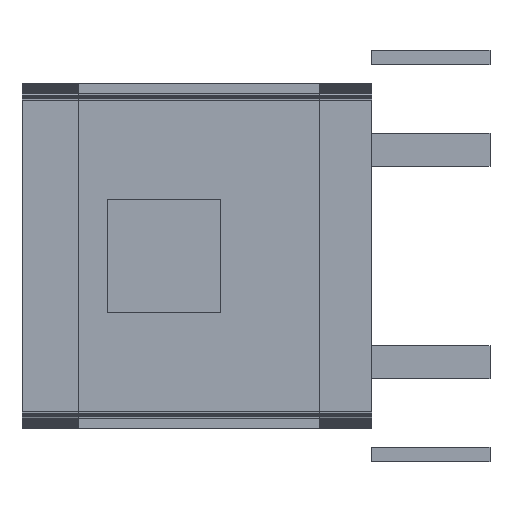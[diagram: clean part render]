
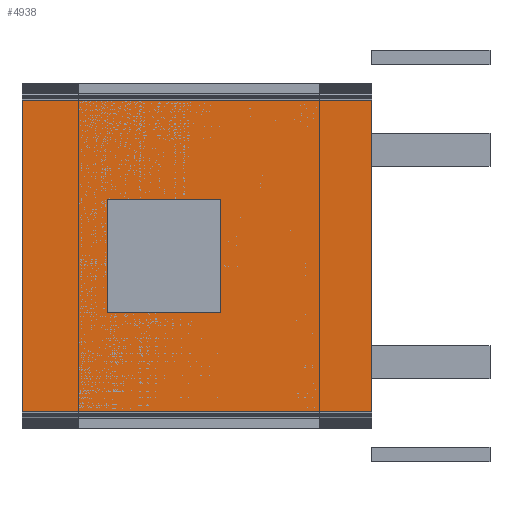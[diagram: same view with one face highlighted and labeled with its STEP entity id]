
A CAD part, left-side view. The second image highlights one B-rep face of the part: STEP entity #4938.
In plain terms, the highlighted planar face has unit normal (-1, 0, 0).
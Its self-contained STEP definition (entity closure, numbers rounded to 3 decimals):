
#32 = PLANE('',#33);
#33 = AXIS2_PLACEMENT_3D('',#34,#35,#36);
#34 = CARTESIAN_POINT('',(-32.411,1.8,27.503
    ));
#35 = DIRECTION('',(0.,1.,0.));
#36 = DIRECTION('',(0.,0.,1.));
#1009 = VERTEX_POINT('',#1010);
#1010 = CARTESIAN_POINT('',(-36.85,1.8,27.7));
#1024 = PLANE('',#1025);
#1025 = AXIS2_PLACEMENT_3D('',#1026,#1027,#1028);
#1026 = CARTESIAN_POINT('',(-36.849,-1.893,
    27.68));
#1027 = DIRECTION('',(-0.999,-0.,-0.037));
#1028 = DIRECTION('',(0.037,0.,-0.999));
#1036 = EDGE_CURVE('',#1037,#1009,#1039,.T.);
#1037 = VERTEX_POINT('',#1038);
#1038 = CARTESIAN_POINT('',(-36.85,1.8,34.3));
#1039 = SURFACE_CURVE('',#1040,(#1044,#1051),.PCURVE_S1.);
#1040 = LINE('',#1041,#1042);
#1041 = CARTESIAN_POINT('',(-36.85,1.8,34.3));
#1042 = VECTOR('',#1043,1.);
#1043 = DIRECTION('',(0.,0.,-1.));
#1044 = PCURVE('',#32,#1045);
#1045 = DEFINITIONAL_REPRESENTATION('',(#1046),#1050);
#1046 = LINE('',#1047,#1048);
#1047 = CARTESIAN_POINT('',(6.797,-4.439));
#1048 = VECTOR('',#1049,1.);
#1049 = DIRECTION('',(-1.,0.));
#1050 = ( GEOMETRIC_REPRESENTATION_CONTEXT(2) 
PARAMETRIC_REPRESENTATION_CONTEXT() REPRESENTATION_CONTEXT('2D SPACE',''
  ) );
#1051 = PCURVE('',#1052,#1057);
#1052 = PLANE('',#1053);
#1053 = AXIS2_PLACEMENT_3D('',#1054,#1055,#1056);
#1054 = CARTESIAN_POINT('',(-36.85,-2.921,29.979));
#1055 = DIRECTION('',(-1.,-0.,-0.));
#1056 = DIRECTION('',(0.,-1.,0.));
#1057 = DEFINITIONAL_REPRESENTATION('',(#1058),#1062);
#1058 = LINE('',#1059,#1060);
#1059 = CARTESIAN_POINT('',(-4.721,4.321));
#1060 = VECTOR('',#1061,1.);
#1061 = DIRECTION('',(0.,-1.));
#1062 = ( GEOMETRIC_REPRESENTATION_CONTEXT(2) 
PARAMETRIC_REPRESENTATION_CONTEXT() REPRESENTATION_CONTEXT('2D SPACE',''
  ) );
#1080 = PLANE('',#1081);
#1081 = AXIS2_PLACEMENT_3D('',#1082,#1083,#1084);
#1082 = CARTESIAN_POINT('',(-36.85,-1.907,
    34.307));
#1083 = DIRECTION('',(-0.999,0.,0.037));
#1084 = DIRECTION('',(-0.037,0.,-0.999));
#2494 = VERTEX_POINT('',#2495);
#2495 = CARTESIAN_POINT('',(-36.85,-5.6,27.7));
#2504 = PLANE('',#2505);
#2505 = AXIS2_PLACEMENT_3D('',#2506,#2507,#2508);
#2506 = CARTESIAN_POINT('',(-36.848,-5.6,27.674));
#2507 = DIRECTION('',(-0.,-1.,-0.));
#2508 = DIRECTION('',(0.,0.,-1.));
#4479 = VERTEX_POINT('',#4480);
#4480 = CARTESIAN_POINT('',(-36.85,-5.6,34.3));
#4501 = EDGE_CURVE('',#4479,#2494,#4502,.T.);
#4502 = SURFACE_CURVE('',#4503,(#4507,#4514),.PCURVE_S1.);
#4503 = LINE('',#4504,#4505);
#4504 = CARTESIAN_POINT('',(-36.85,-5.6,34.3));
#4505 = VECTOR('',#4506,1.);
#4506 = DIRECTION('',(0.,0.,-1.));
#4507 = PCURVE('',#2504,#4508);
#4508 = DEFINITIONAL_REPRESENTATION('',(#4509),#4513);
#4509 = LINE('',#4510,#4511);
#4510 = CARTESIAN_POINT('',(-6.626,-0.002));
#4511 = VECTOR('',#4512,1.);
#4512 = DIRECTION('',(1.,0.));
#4513 = ( GEOMETRIC_REPRESENTATION_CONTEXT(2) 
PARAMETRIC_REPRESENTATION_CONTEXT() REPRESENTATION_CONTEXT('2D SPACE',''
  ) );
#4514 = PCURVE('',#1052,#4515);
#4515 = DEFINITIONAL_REPRESENTATION('',(#4516),#4520);
#4516 = LINE('',#4517,#4518);
#4517 = CARTESIAN_POINT('',(2.679,4.321));
#4518 = VECTOR('',#4519,1.);
#4519 = DIRECTION('',(0.,-1.));
#4520 = ( GEOMETRIC_REPRESENTATION_CONTEXT(2) 
PARAMETRIC_REPRESENTATION_CONTEXT() REPRESENTATION_CONTEXT('2D SPACE',''
  ) );
#4938 = ADVANCED_FACE('',(#4939),#1052,.T.);
#4939 = FACE_BOUND('',#4940,.T.);
#4940 = EDGE_LOOP('',(#4941,#4962,#4963,#4984));
#4941 = ORIENTED_EDGE('',*,*,#4942,.T.);
#4942 = EDGE_CURVE('',#1009,#2494,#4943,.T.);
#4943 = SURFACE_CURVE('',#4944,(#4948,#4955),.PCURVE_S1.);
#4944 = LINE('',#4945,#4946);
#4945 = CARTESIAN_POINT('',(-36.85,1.8,27.7));
#4946 = VECTOR('',#4947,1.);
#4947 = DIRECTION('',(0.,-1.,0.));
#4948 = PCURVE('',#1052,#4949);
#4949 = DEFINITIONAL_REPRESENTATION('',(#4950),#4954);
#4950 = LINE('',#4951,#4952);
#4951 = CARTESIAN_POINT('',(-4.721,-2.279));
#4952 = VECTOR('',#4953,1.);
#4953 = DIRECTION('',(1.,0.));
#4954 = ( GEOMETRIC_REPRESENTATION_CONTEXT(2) 
PARAMETRIC_REPRESENTATION_CONTEXT() REPRESENTATION_CONTEXT('2D SPACE',''
  ) );
#4955 = PCURVE('',#1024,#4956);
#4956 = DEFINITIONAL_REPRESENTATION('',(#4957),#4961);
#4957 = LINE('',#4958,#4959);
#4958 = CARTESIAN_POINT('',(-0.02,-3.693));
#4959 = VECTOR('',#4960,1.);
#4960 = DIRECTION('',(0.,1.));
#4961 = ( GEOMETRIC_REPRESENTATION_CONTEXT(2) 
PARAMETRIC_REPRESENTATION_CONTEXT() REPRESENTATION_CONTEXT('2D SPACE',''
  ) );
#4962 = ORIENTED_EDGE('',*,*,#4501,.F.);
#4963 = ORIENTED_EDGE('',*,*,#4964,.T.);
#4964 = EDGE_CURVE('',#4479,#1037,#4965,.T.);
#4965 = SURFACE_CURVE('',#4966,(#4970,#4977),.PCURVE_S1.);
#4966 = LINE('',#4967,#4968);
#4967 = CARTESIAN_POINT('',(-36.85,-5.6,34.3));
#4968 = VECTOR('',#4969,1.);
#4969 = DIRECTION('',(0.,1.,0.));
#4970 = PCURVE('',#1052,#4971);
#4971 = DEFINITIONAL_REPRESENTATION('',(#4972),#4976);
#4972 = LINE('',#4973,#4974);
#4973 = CARTESIAN_POINT('',(2.679,4.321));
#4974 = VECTOR('',#4975,1.);
#4975 = DIRECTION('',(-1.,0.));
#4976 = ( GEOMETRIC_REPRESENTATION_CONTEXT(2) 
PARAMETRIC_REPRESENTATION_CONTEXT() REPRESENTATION_CONTEXT('2D SPACE',''
  ) );
#4977 = PCURVE('',#1080,#4978);
#4978 = DEFINITIONAL_REPRESENTATION('',(#4979),#4983);
#4979 = LINE('',#4980,#4981);
#4980 = CARTESIAN_POINT('',(0.007,3.693));
#4981 = VECTOR('',#4982,1.);
#4982 = DIRECTION('',(0.,-1.));
#4983 = ( GEOMETRIC_REPRESENTATION_CONTEXT(2) 
PARAMETRIC_REPRESENTATION_CONTEXT() REPRESENTATION_CONTEXT('2D SPACE',''
  ) );
#4984 = ORIENTED_EDGE('',*,*,#1036,.T.);
